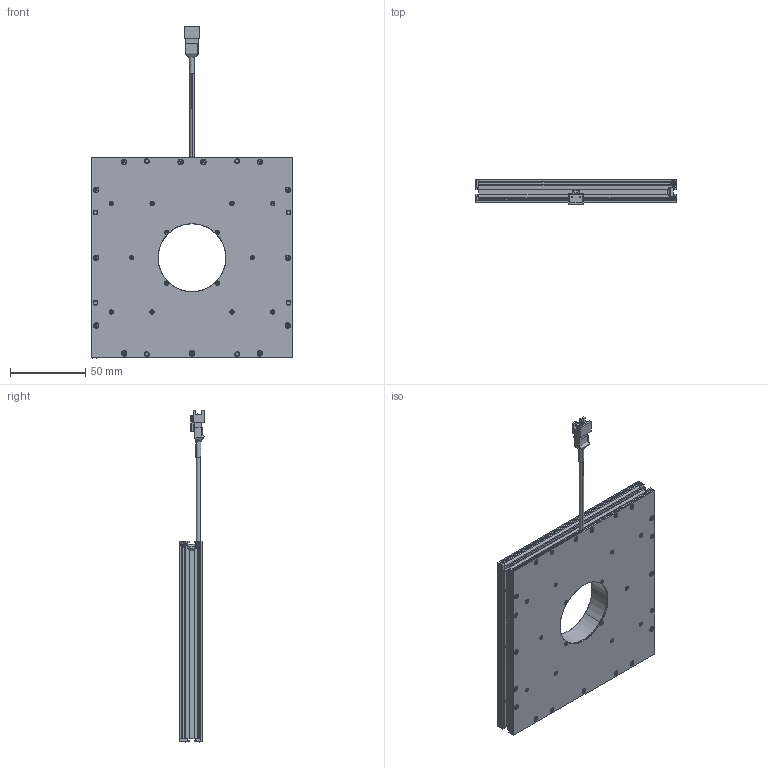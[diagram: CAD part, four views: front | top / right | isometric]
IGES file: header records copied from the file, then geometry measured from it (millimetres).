
Start section: SolidWorks IGES file using analytic representation for surfaces
Global section: file name: C:\Users\user\Downloads\TEMP_STEP\VDFH-120120_Drawing_L1194A-A00100.IGS; native system: SolidWorks 2018; preprocessor: SolidWorks 2018; author: user; date: 231221.090518; units: millimetre
Bounding box: 133 x 16.55 x 220.19 mm (x, y, z)
Surface area: 76474.5 mm2 (no closed solid volume)
Topology: 0 solids, 0 shells, 827 faces, 9583 edges, 9583 vertices
Faces by surface type: bspline 551, revolution 276
